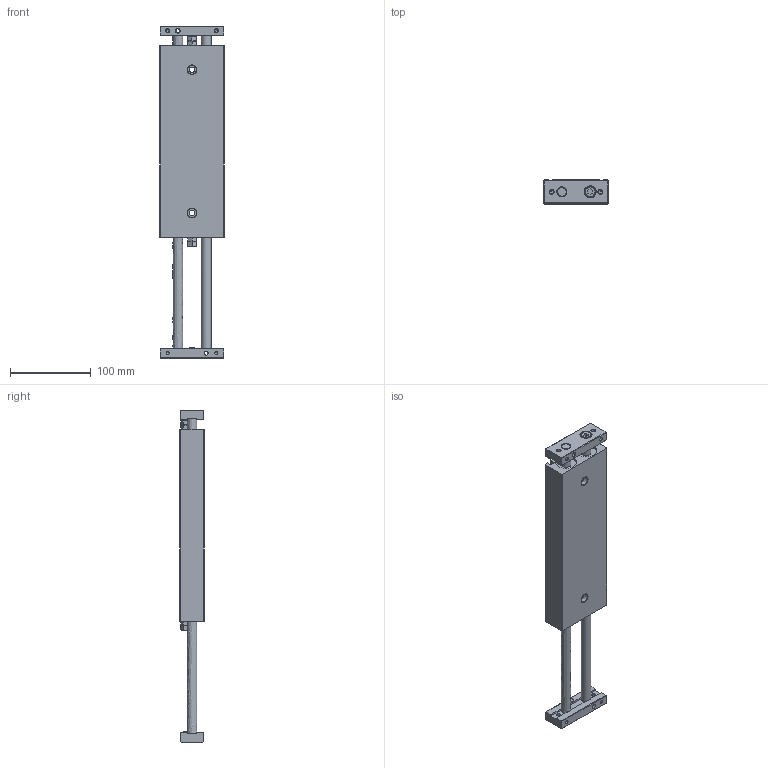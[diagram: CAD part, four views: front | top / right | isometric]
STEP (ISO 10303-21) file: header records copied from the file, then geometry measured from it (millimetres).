
FILE_DESCRIPTION((''),'2;1');
FILE_NAME('I:\3D電子目錄\氣缸\STX\STX\STX25\STX25x125.stp','2007-10-02T09:10:13',('Administrator'),(''),'Autodesk Inventor 11','Autodesk Inventor 11','');
FILE_SCHEMA(('AUTOMOTIVE_DESIGN { 1 0 10303 214 1 1 1 1 }'));
Length unit declared in the file: millimetre
Products named in the file (1): STX25
Bounding box: 80 x 30 x 410 mm (x, y, z)
Volume: 623717.3 mm3; surface area: 96770.7 mm2
Topology: 1 solids, 1 shells, 274 faces, 653 edges, 406 vertices
Faces by surface type: plane 127, cone 75, bspline 46, cylinder 22, torus 4
Full cylindrical faces by diameter (mm): 4.134 x4, 6 x2, 11 x2, 12 x4, 12.2 x2, 13 x2, 14 x2, 26 x2, 27.4 x2
Entity records: 8035 total; most frequent: CARTESIAN_POINT 2555, ORIENTED_EDGE 1058, DIRECTION 1056, EDGE_CURVE 529, EDGE_LOOP 420, AXIS2_PLACEMENT_3D 402, VERTEX_POINT 373, FACE_OUTER_BOUND 274
